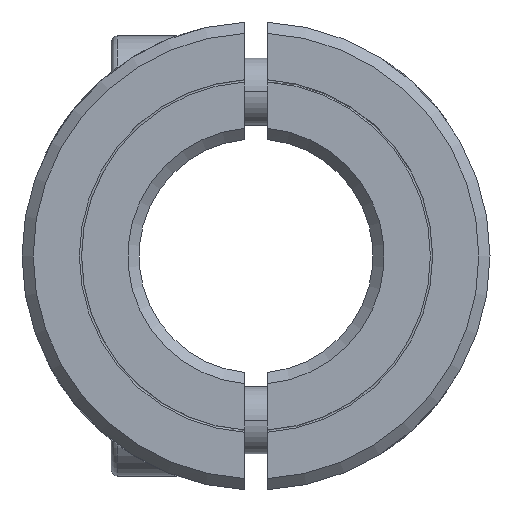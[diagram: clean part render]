
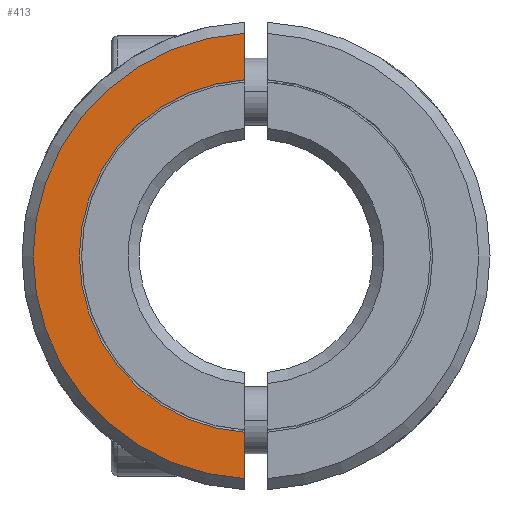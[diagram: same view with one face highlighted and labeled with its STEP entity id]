
A CAD part, left-side view. The second image highlights one B-rep face of the part: STEP entity #413.
In plain terms, the highlighted planar face has unit normal (-1, 0, 0).
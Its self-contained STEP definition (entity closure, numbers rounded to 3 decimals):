
#26=CARTESIAN_POINT('',(-7.5,0.,0.));
#27=DIRECTION('',(-1.,0.,0.));
#28=DIRECTION('',(0.,0.063,0.998));
#29=AXIS2_PLACEMENT_3D('',#26,#27,#28);
#31=DIRECTION('',(0.,0.,-1.));
#32=VECTOR('',#31,4.157);
#33=CARTESIAN_POINT('',(-7.5,1.,-15.818));
#34=LINE('',#33,#32);
#35=DIRECTION('',(0.,0.,-1.));
#36=VECTOR('',#35,4.157);
#37=CARTESIAN_POINT('',(-7.5,1.,19.975));
#38=LINE('',#37,#36);
#207=CARTESIAN_POINT('',(-7.5,0.,0.));
#208=DIRECTION('',(1.,0.,0.));
#209=DIRECTION('',(0.,0.05,-0.999));
#210=AXIS2_PLACEMENT_3D('',#207,#208,#209);
#358=CARTESIAN_POINT('',(-7.5,1.,-19.975));
#359=CARTESIAN_POINT('',(-7.5,1.,19.975));
#360=VERTEX_POINT('',#358);
#361=VERTEX_POINT('',#359);
#390=CARTESIAN_POINT('',(-7.5,1.,15.818));
#391=CARTESIAN_POINT('',(-7.5,1.,-15.818));
#392=VERTEX_POINT('',#390);
#393=VERTEX_POINT('',#391);
#398=CARTESIAN_POINT('',(-7.5,0.,0.));
#399=DIRECTION('',(1.,0.,0.));
#400=DIRECTION('',(0.,0.,-1.));
#401=AXIS2_PLACEMENT_3D('',#398,#399,#400);
#402=PLANE('',#401);
#404=ORIENTED_EDGE('',*,*,#403,.T.);
#406=ORIENTED_EDGE('',*,*,#405,.T.);
#408=ORIENTED_EDGE('',*,*,#407,.T.);
#410=ORIENTED_EDGE('',*,*,#409,.T.);
#411=EDGE_LOOP('',(#404,#406,#408,#410));
#412=FACE_OUTER_BOUND('',#411,.F.);
#413=ADVANCED_FACE('',(#412),#402,.F.);
#30=CIRCLE('',#29,15.85);
#211=CIRCLE('',#210,20.);
#403=EDGE_CURVE('',#392,#393,#30,.T.);
#405=EDGE_CURVE('',#393,#360,#34,.T.);
#407=EDGE_CURVE('',#360,#361,#211,.T.);
#409=EDGE_CURVE('',#361,#392,#38,.T.);
